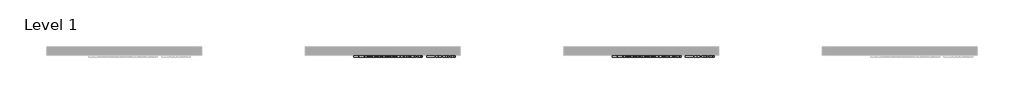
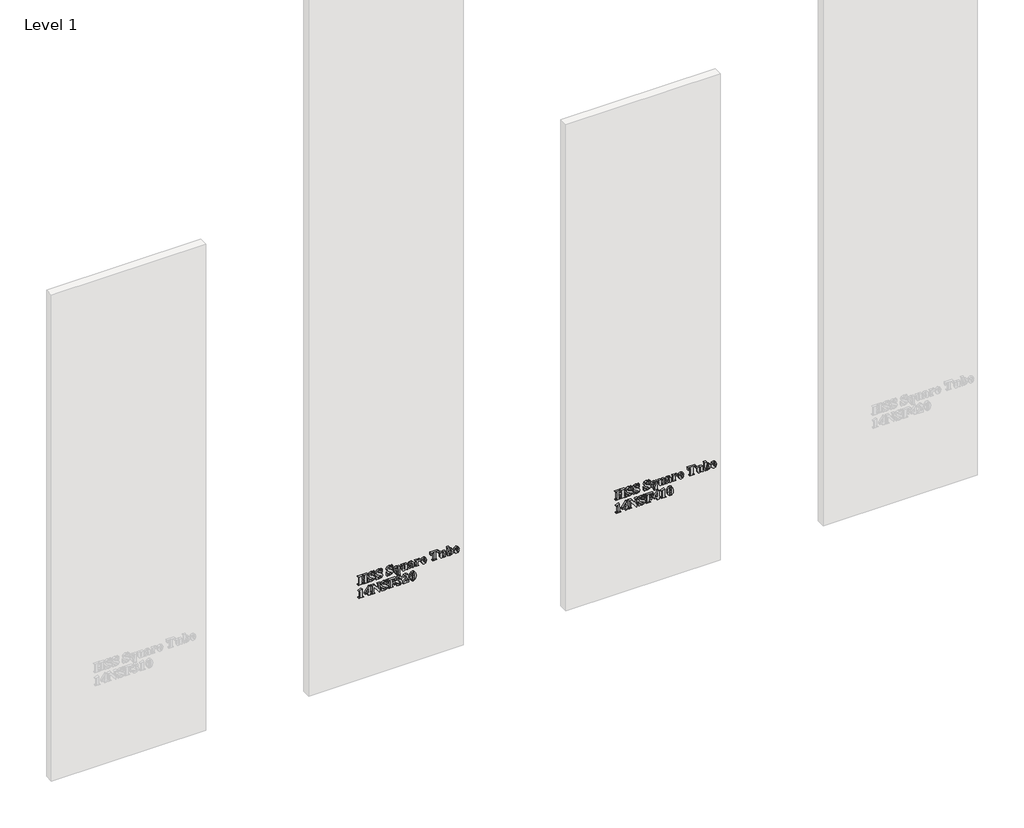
# One storey, part 2 of 21: 4 proxies.
"""IFC4 building model written with IfcOpenShell, lengths in millimetres."""

from ifc_helpers import new_model, si_unit, frame, origin, place, context, project, spatial, polyline, outline, extrude, element, save

model = new_model("IFC4")

# Units and contexts
model_context = context("Model", 3, world=origin())
ifc_project = project(units=[si_unit("LENGTHUNIT", "METRE", prefix="MILLI")], contexts=[model_context])

# Site, building, storey
site = spatial("IfcSite", under=ifc_project)
building = spatial("IfcBuilding", under=site)
storey = spatial("IfcBuildingStorey", under=building, Name="Level 1", Elevation=0.0)

# Proxies
placement = place(None, origin())
element("IfcBuildingElementProxy", 1, Name="2\"\" Arial", ObjectType="2\"\" Arial", at=placement, inside=storey, context=model_context, shape_type="SweptSolid", body=[
    extrude(outline(polyline([(625.0991907, -1958.7992544), (625.0991907, -1940.1843807), (609.1435847, -1940.1843807), (604.559118, -1940.5860409), (602.8139736, -1942.1095797), (602.0522042, -1945.6414196), (602.0522042, -1947.2757612), (600.2793591, -1947.2757612), (600.2793591, -1920.6830845), (602.0522042, -1920.6830845), (602.0522042, -1922.3174261), (602.7585722, -1925.696912), (604.4136893, -1927.3658795), (609.1435847, -1927.7744649), (643.7140644, -1927.7744649), (648.298531, -1927.3728047), (650.0436754, -1925.8492659), (650.8054448, -1922.3174261), (650.8054448, -1920.6830845), (652.5782899, -1920.6830845), (652.5782899, -1947.2757612), (650.8054448, -1947.2757612), (650.8054448, -1945.6414196), (650.0990768, -1942.2619336), (648.4439597, -1940.5929661), (643.7140644, -1940.1843807), (628.6448809, -1940.1843807), (628.6448809, -1958.7992544), (643.7140644, -1958.7992544), (648.298531, -1958.3975942), (650.0436754, -1956.8740554), (650.8054448, -1953.3699162), (650.8054448, -1951.7078739), (652.5782899, -1951.7078739), (652.5782899, -1978.3005506), (650.8054448, -1978.3005506), (650.8054448, -1976.624658), (650.0990768, -1973.2728727), (648.4439597, -1971.6177556), (643.7140644, -1971.2091702), (609.1435847, -1971.2091702), (604.559118, -1971.6108304), (602.8139736, -1973.1066685), (602.0522042, -1976.624658), (602.0522042, -1978.3005506), (600.2793591, -1978.3005506), (600.2793591, -1951.7078739), (602.0522042, -1951.7078739), (602.0522042, -1953.3699162), (602.7585722, -1956.7147763), (604.4136893, -1958.3768186), (609.1435847, -1958.7992544), (625.0991907, -1958.7992544)])), frame((0.0, -15490.3579358, 0.0), z_axis=(0.0, 1.0, 0.0), x_axis=(0.0, 0.0, 1.0)), (0.0, 0.0, 1.0), 12.7),
    extrude(outline(polyline([(653.4647125, -1879.9076469), (653.4647125, -1881.680492), (650.5284378, -1882.7885202), (649.9190223, -1884.4228618), (651.1586288, -1888.1832325), (652.855297, -1892.7330732), (653.4647125, -1897.8161526), (649.1364773, -1909.7482312), (638.6448354, -1914.4781266), (632.0382173, -1912.843785), (626.6019539, -1908.1623659), (620.6947786, -1897.3175399), (616.6504757, -1889.5613425), (613.3817925, -1886.2995845), (609.8222519, -1885.2261822), (604.3859886, -1887.8923751), (602.0522042, -1895.0599324), (606.366589, -1905.9116836), (618.8942328, -1912.7052815), (618.8942328, -1914.4781266), (599.3929366, -1914.4781266), (599.3929366, -1912.7052815), (602.0660546, -1910.8839601), (602.9386268, -1908.7440807), (602.0799049, -1905.6831528), (599.9538758, -1900.1360866), (599.3929366, -1895.4477423), (604.0743557, -1882.38686), (615.2654405, -1877.2483792), (624.365122, -1879.8660958), (632.813837, -1892.5530187), (637.3013512, -1901.6942513), (640.8608918, -1905.613901), (643.9218197, -1906.5003236), (648.7209668, -1904.0765119), (650.8054448, -1897.4975945), (646.6711146, -1887.4837897), (635.7362614, -1881.680492), (635.7362614, -1879.9076469), (653.4647125, -1879.9076469)])), frame((0.0, -15490.3579358, 0.0), z_axis=(0.0, 1.0, 0.0), x_axis=(0.0, 0.0, 1.0)), (0.0, 0.0, 1.0), 12.7),
    extrude(outline(polyline([(653.4647125, -1836.4729416), (653.4647125, -1838.2457867), (650.5284378, -1839.3538149), (649.9190223, -1840.9881565), (651.1586288, -1844.7485272), (652.855297, -1849.298368), (653.4647125, -1854.3814473), (649.1364773, -1866.3135259), (638.6448354, -1871.0434213), (632.0382173, -1869.4090797), (626.6019539, -1864.7276606), (620.6947786, -1853.8828346), (616.6504757, -1846.1266373), (613.3817925, -1842.8648793), (609.8222519, -1841.7914769), (604.3859886, -1844.4576698), (602.0522042, -1851.6252272), (606.366589, -1862.4769783), (618.8942328, -1869.2705762), (618.8942328, -1871.0434213), (599.3929366, -1871.0434213), (599.3929366, -1869.2705762), (602.0660546, -1867.4492548), (602.9386268, -1865.3093754), (602.0799049, -1862.2484475), (599.9538758, -1856.7013814), (599.3929366, -1852.0130371), (604.0743557, -1838.9521547), (615.2654405, -1833.8136739), (624.365122, -1836.4313906), (632.813837, -1849.1183134), (637.3013512, -1858.259546), (640.8608918, -1862.1791957), (643.9218197, -1863.0656183), (648.7209668, -1860.6418066), (650.8054448, -1854.0628892), (646.6711146, -1844.0490844), (635.7362614, -1838.2457867), (635.7362614, -1836.4729416), (653.4647125, -1836.4729416)])), frame((0.0, -15490.3579358, 0.0), z_axis=(0.0, 1.0, 0.0), x_axis=(0.0, 0.0, 1.0)), (0.0, 0.0, 1.0), 12.7),
    extrude(outline(polyline([(653.4647125, -1773.5369401), (653.4647125, -1775.3097852), (650.5284378, -1776.4178134), (649.9190223, -1778.052155), (651.1586288, -1781.8125257), (652.855297, -1786.3623665), (653.4647125, -1791.4454458), (649.1364773, -1803.3775244), (638.6448354, -1808.1074198), (632.0382173, -1806.4730782), (626.6019539, -1801.7916591), (620.6947786, -1790.9468331), (616.6504757, -1783.1906358), (613.3817925, -1779.9288778), (609.8222519, -1778.8554754), (604.3859886, -1781.5216683), (602.0522042, -1788.6892257), (606.366589, -1799.5409768), (618.8942328, -1806.3345747), (618.8942328, -1808.1074198), (599.3929366, -1808.1074198), (599.3929366, -1806.3345747), (602.0660546, -1804.5132533), (602.9386268, -1802.3733739), (602.0799049, -1799.312446), (599.9538758, -1793.7653799), (599.3929366, -1789.0770355), (604.0743557, -1776.0161532), (615.2654405, -1770.8776724), (624.365122, -1773.4953891), (632.813837, -1786.1823119), (637.3013512, -1795.3235445), (640.8608918, -1799.2431942), (643.9218197, -1800.1296168), (648.7209668, -1797.7058051), (650.8054448, -1791.1268877), (646.6711146, -1781.1130829), (635.7362614, -1775.3097852), (635.7362614, -1773.5369401), (653.4647125, -1773.5369401)])), frame((0.0, -15490.3579358, 0.0), z_axis=(0.0, 1.0, 0.0), x_axis=(0.0, 0.0, 1.0)), (0.0, 0.0, 1.0), 12.7),
    extrude(outline(polyline([(604.2544103, -1742.5121506), (589.6422884, -1742.5121506), (586.7683403, -1742.9138109), (585.6395366, -1744.3888734), (585.2101756, -1747.830686), (583.4373305, -1747.830686), (583.4373305, -1728.3293897), (585.2101756, -1728.3293897), (586.7475648, -1731.404168), (591.4151335, -1731.87508), (636.6226839, -1733.135462), (633.0769937, -1738.9664604), (635.7431865, -1743.1354165), (636.6226839, -1748.6755575), (634.0880694, -1757.498232), (626.761233, -1764.0563739), (616.5258225, -1766.4455597), (605.2931867, -1763.31538), (600.8679991, -1758.6547364), (599.3929366, -1752.5675065), (600.7779718, -1746.9165627), (604.2544103, -1742.5121506)]), holes=[polyline([(607.6892977, -1742.5121506), (604.7530229, -1746.064766), (603.8250493, -1749.3819254), (606.013405, -1753.4954801), (617.2460408, -1755.808489), (631.4703528, -1753.1215206), (633.9634162, -1748.3292987), (633.2570483, -1745.8500856), (629.9121882, -1743.2254438), (621.9967117, -1742.5121506), (607.6892977, -1742.5121506)])]), frame((0.0, -15490.3579358, 0.0), z_axis=(0.0, 1.0, 0.0), x_axis=(0.0, 0.0, 1.0)), (0.0, 0.0, 1.0), 12.7),
    extrude(outline(polyline([(635.7362614, -1688.4403747), (635.7362614, -1702.6231356), (633.9634162, -1702.6231356), (632.6891838, -1699.7630378), (627.7584584, -1699.0774454), (609.2959385, -1699.0774454), (605.4178399, -1702.5123328), (604.7114719, -1704.8253416), (605.2724112, -1706.528935), (606.9206031, -1707.6023373), (611.7613013, -1707.9416709), (635.7362614, -1707.9416709), (635.7362614, -1722.1244318), (633.9634162, -1722.1244318), (632.6891838, -1719.2643341), (627.7584584, -1718.5787416), (613.9081059, -1718.5787416), (605.4386154, -1717.8031219), (601.2004075, -1714.7560443), (599.3929366, -1709.5621622), (600.7017949, -1704.0289464), (605.0992818, -1699.0774454), (600.2793591, -1699.0774454), (600.2793591, -1684.8946845), (602.0522042, -1684.8946845), (603.2987359, -1687.7409319), (608.2571621, -1688.4403747), (635.7362614, -1688.4403747)])), frame((0.0, -15490.3579358, 0.0), z_axis=(0.0, 1.0, 0.0), x_axis=(0.0, 0.0, 1.0)), (0.0, 0.0, 1.0), 12.7),
    extrude(outline(polyline([(605.5978944, -1660.0748529), (600.9372508, -1658.1496539), (599.3929366, -1653.7729425), (600.7225704, -1649.5139592), (605.5286427, -1647.0416712), (605.9303029, -1649.2992787), (608.9635301, -1649.4377822), (622.6199776, -1649.4377822), (629.8914126, -1649.977946), (634.4966548, -1653.8906705), (636.6226839, -1662.0693036), (635.3069004, -1670.296413), (631.518829, -1676.4736702), (626.3318721, -1678.6897266), (622.9870119, -1677.055385), (621.5535005, -1672.9833814), (622.8762091, -1669.3061128), (626.0687154, -1667.900302), (629.2542964, -1669.354589), (631.2487472, -1670.4349165), (632.8553881, -1669.4376911), (633.9634162, -1665.1994833), (633.167021, -1662.2909093), (631.3041486, -1660.5388397), (626.1241168, -1660.0748529), (622.4676237, -1660.0748529), (613.7765276, -1675.9335064), (606.4289156, -1679.5761491), (601.4012377, -1677.4778207), (599.3929366, -1672.221612), (605.5978944, -1660.0748529)]), holes=[polyline([(608.2571621, -1660.0748529), (605.5978944, -1664.7701224), (606.6505212, -1667.6094446), (609.8222519, -1668.9390785), (614.0881605, -1667.3601383), (620.0299617, -1660.0748529), (608.2571621, -1660.0748529)])]), frame((0.0, -15490.3579358, 0.0), z_axis=(0.0, 1.0, 0.0), x_axis=(0.0, 0.0, 1.0)), (0.0, 0.0, 1.0), 12.7),
    extrude(outline(polyline([(635.7362614, -1624.6179506), (635.7362614, -1638.8007115), (633.9634162, -1638.8007115), (633.2708986, -1636.5154034), (631.6919584, -1635.5320284), (627.7584584, -1635.2550213), (608.2571621, -1635.2550213), (603.1810079, -1635.98909), (602.0522042, -1638.8007115), (600.2793591, -1638.8007115), (600.2793591, -1621.0722604), (602.0522042, -1621.0722604), (602.592368, -1623.3852693), (603.9635529, -1624.4101954), (606.484317, -1624.6179506), (608.6172713, -1624.6179506), (616.8305303, -1624.6179506), (624.9883879, -1623.2883168), (628.686432, -1620.6983009), (629.2542964, -1617.7758765), (627.5299275, -1616.5085693), (625.9856132, -1613.98088), (627.4260499, -1610.2205093), (631.4842032, -1608.6623446), (635.2791997, -1610.1097065), (636.6226839, -1613.98088), (634.8913899, -1618.8008026), (627.5784038, -1624.6179506), (635.7362614, -1624.6179506)])), frame((0.0, -15490.3579358, 0.0), z_axis=(0.0, 1.0, 0.0), x_axis=(0.0, 0.0, 1.0)), (0.0, 0.0, 1.0), 12.7),
    extrude(outline(polyline([(619.7806553, -1573.2054424), (632.3775509, -1577.672181), (636.6226839, -1587.4436047), (631.4218766, -1599.2094791), (617.4260954, -1604.2302318), (605.4039895, -1600.8230451), (600.8956998, -1595.570299), (599.3929366, -1588.3161769), (602.0106532, -1579.8743871), (611.8028523, -1574.5212259), (606.9483038, -1578.7040323), (605.5978944, -1583.0391926), (608.7142237, -1589.6458107), (619.7806553, -1593.5931612), (619.7806553, -1573.2054424)]), holes=[polyline([(622.439923, -1582.9560905), (623.658754, -1593.5931612), (632.1767208, -1591.2801523), (633.9634162, -1587.9560677), (633.3401504, -1585.767712), (630.1545693, -1583.6416829), (622.439923, -1582.9560905)])]), frame((0.0, -15490.3579358, 0.0), z_axis=(0.0, 1.0, 0.0), x_axis=(0.0, 0.0, 1.0)), (0.0, 0.0, 1.0), 12.7),
    extrude(outline(polyline([(652.5782899, -1502.2916379), (652.5782899, -1548.3856108), (637.5091065, -1548.3856108), (637.5091065, -1546.6127657), (646.7195908, -1542.5130614), (649.0325997, -1535.0892725), (649.0325997, -1531.5435822), (609.1435847, -1531.5435822), (604.559118, -1531.9452424), (602.8139736, -1533.4687812), (602.0522042, -1536.9729204), (602.0522042, -1538.6349627), (600.2793591, -1538.6349627), (600.2793591, -1512.042286), (602.0522042, -1512.042286), (602.0522042, -1513.6904779), (602.7585722, -1517.0561136), (604.4136893, -1518.7112307), (609.1435847, -1519.1336664), (649.0325997, -1519.1336664), (649.0325997, -1515.5879762), (648.3123814, -1510.6572507), (644.7874667, -1506.6960499), (637.5091065, -1504.064483), (637.5091065, -1502.2916379), (652.5782899, -1502.2916379)])), frame((0.0, -15490.3579358, 0.0), z_axis=(0.0, 1.0, 0.0), x_axis=(0.0, 0.0, 1.0)), (0.0, 0.0, 1.0), 12.7),
    extrude(outline(polyline([(635.7362614, -1462.4026228), (635.7362614, -1476.5853837), (633.9634162, -1476.5853837), (632.6891838, -1473.725286), (627.7584584, -1473.0396935), (609.2959385, -1473.0396935), (605.4178399, -1476.4745809), (604.7114719, -1478.7875898), (605.2724112, -1480.4911831), (606.9206031, -1481.5645854), (611.7613013, -1481.9039191), (635.7362614, -1481.9039191), (635.7362614, -1496.08668), (633.9634162, -1496.08668), (632.6891838, -1493.2265822), (627.7584584, -1492.5409897), (613.9081059, -1492.5409897), (605.4386154, -1491.76537), (601.2004075, -1488.7182925), (599.3929366, -1483.5244103), (600.7017949, -1477.9911945), (605.0992818, -1473.0396935), (600.2793591, -1473.0396935), (600.2793591, -1458.8569326), (602.0522042, -1458.8569326), (603.2987359, -1461.70318), (608.2571621, -1462.4026228), (635.7362614, -1462.4026228)])), frame((0.0, -15490.3579358, 0.0), z_axis=(0.0, 1.0, 0.0), x_axis=(0.0, 0.0, 1.0)), (0.0, 0.0, 1.0), 12.7),
    extrude(outline(polyline([(652.5782899, -1438.4692138), (652.5782899, -1452.6519747), (650.8054448, -1452.6519747), (650.1891041, -1450.3320407), (648.5478374, -1449.3278901), (644.6004869, -1449.1062845), (599.3929366, -1447.8320521), (602.9386268, -1442.014904), (600.2239577, -1437.5135395), (599.3929366, -1432.2781063), (601.8513741, -1423.2338261), (609.0050811, -1416.9042151), (619.4482469, -1414.5358048), (628.4648263, -1416.391752), (634.4966548, -1421.5233076), (636.6226839, -1428.5108104), (631.9274144, -1438.4692138), (652.5782899, -1438.4692138)]), holes=[polyline([(628.5617788, -1438.4692138), (632.1905711, -1431.6963915), (630.0299162, -1427.3889319), (619.0050356, -1425.1728755), (607.426141, -1426.177026), (603.1325317, -1428.6770146), (602.0522042, -1432.2781063), (603.4164639, -1436.2531574), (606.9829297, -1438.2199075), (613.0355337, -1438.4692138), (628.5617788, -1438.4692138)])]), frame((0.0, -15490.3579358, 0.0), z_axis=(0.0, 1.0, 0.0), x_axis=(0.0, 0.0, 1.0)), (0.0, 0.0, 1.0), 12.7),
    extrude(outline(polyline([(619.7806553, -1379.0789025), (632.3775509, -1383.5456412), (636.6226839, -1393.3170648), (631.4218766, -1405.0829392), (617.4260954, -1410.103692), (605.4039895, -1406.6965053), (600.8956998, -1401.4437591), (599.3929366, -1394.1896371), (602.0106532, -1385.7478472), (611.8028523, -1380.394686), (606.9483038, -1384.5774925), (605.5978944, -1388.9126528), (608.7142237, -1395.5192709), (619.7806553, -1399.4666213), (619.7806553, -1379.0789025)]), holes=[polyline([(622.439923, -1388.8295507), (623.658754, -1399.4666213), (632.1767208, -1397.1536125), (633.9634162, -1393.8295279), (633.3401504, -1391.6411722), (630.1545693, -1389.5151431), (622.439923, -1388.8295507)])]), frame((0.0, -15490.3579358, 0.0), z_axis=(0.0, 1.0, 0.0), x_axis=(0.0, 0.0, 1.0)), (0.0, 0.0, 1.0), 12.7),
])
element("IfcBuildingElementProxy", 2, Name="2\"\" Arial", ObjectType="2\"\" Arial", at=placement, inside=storey, context=model_context, shape_type="SweptSolid", body=[
    extrude(outline(polyline([(570.9147125, -1954.9973326), (562.0504869, -1974.7548604), (560.2776418, -1974.0900435), (561.5103232, -1969.5332775), (560.873207, -1967.4557247), (559.3565934, -1966.2230433), (554.9591065, -1965.8906348), (528.3664298, -1965.8906348), (522.2999754, -1966.4100231), (520.2501233, -1968.3975486), (519.5022042, -1974.7548604), (517.7293591, -1974.7548604), (517.7293591, -1946.3893386), (519.5022042, -1947.62202), (520.319375, -1952.0956838), (522.4246286, -1953.9308555), (528.3664298, -1954.3671416), (570.9147125, -1954.9973326)])), frame((0.0, -15490.3579358, 0.0), z_axis=(0.0, 1.0, 0.0), x_axis=(0.0, 0.0, 1.0)), (0.0, 0.0, 1.0), 12.7),
    extrude(outline(polyline([(537.2306553, -1937.525113), (529.2528523, -1937.525113), (529.2528523, -1918.9102393), (517.7293591, -1918.9102393), (517.7293591, -1907.3867461), (529.2528523, -1907.3867461), (529.2528523, -1902.9546333), (537.2306553, -1902.9546333), (537.2306553, -1907.3867461), (570.9147125, -1907.3867461), (570.9147125, -1912.4975262), (537.2306553, -1937.525113)]), holes=[polyline([(537.2306553, -1934.8381447), (558.6571506, -1918.9102393), (537.2306553, -1918.9102393), (537.2306553, -1934.8381447)])]), frame((0.0, -15490.3579358, 0.0), z_axis=(0.0, 1.0, 0.0), x_axis=(0.0, 0.0, 1.0)), (0.0, 0.0, 1.0), 12.7),
    extrude(outline(polyline([(570.0282899, -1880.3231574), (570.0282899, -1898.7441262), (568.2554448, -1898.7441262), (567.6529545, -1895.080708), (564.5019993, -1891.4311401), (526.5935847, -1891.4311401), (521.143471, -1892.9893048), (519.5022042, -1898.5225206), (517.7293591, -1898.5225206), (517.7293591, -1880.7940694), (519.5022042, -1881.8882473), (520.9634164, -1886.0641285), (526.5935847, -1887.8854499), (560.0006348, -1887.8854499), (516.8429366, -1854.0628892), (516.8429366, -1852.4285476), (559.3912193, -1852.4285476), (564.8274826, -1851.7706559), (567.1127907, -1849.9354842), (568.2554448, -1845.3371672), (570.0282899, -1845.3371672), (570.0282899, -1863.0656183), (568.2554448, -1863.0656183), (566.0116877, -1857.2346199), (559.3912193, -1855.9742378), (538.9619494, -1855.9742378), (570.0282899, -1880.3231574)])), frame((0.0, -15490.3579358, 0.0), z_axis=(0.0, 1.0, 0.0), x_axis=(0.0, 0.0, 1.0)), (0.0, 0.0, 1.0), 12.7),
    extrude(outline(polyline([(570.9147125, -1804.5617296), (570.9147125, -1806.3345747), (567.9784378, -1807.4426029), (567.3690223, -1809.0769445), (568.6086288, -1812.8373152), (570.305297, -1817.3871559), (570.9147125, -1822.4702353), (566.5864773, -1834.4023139), (556.0948354, -1839.1322093), (549.4882173, -1837.4978677), (544.0519539, -1832.8164486), (538.1447786, -1821.9716226), (534.1004757, -1814.2154252), (530.8317925, -1810.9536672), (527.2722519, -1809.8802649), (521.8359886, -1812.5464578), (519.5022042, -1819.7140152), (523.816589, -1830.5657663), (536.3442328, -1837.3593642), (536.3442328, -1839.1322093), (516.8429366, -1839.1322093), (516.8429366, -1837.3593642), (519.5160546, -1835.5380428), (520.3886268, -1833.3981634), (519.5299049, -1830.3372355), (517.4038758, -1824.7901693), (516.8429366, -1820.101825), (521.5243557, -1807.0409427), (532.7154405, -1801.9024619), (541.815122, -1804.5201785), (550.263837, -1817.2071014), (554.7513512, -1826.348334), (558.3108918, -1830.2679837), (561.3718197, -1831.1544063), (566.1709668, -1828.7305946), (568.2554448, -1822.1516772), (564.1211146, -1812.1378724), (553.1862614, -1806.3345747), (553.1862614, -1804.5617296), (570.9147125, -1804.5617296)])), frame((0.0, -15490.3579358, 0.0), z_axis=(0.0, 1.0, 0.0), x_axis=(0.0, 0.0, 1.0)), (0.0, 0.0, 1.0), 12.7),
    extrude(outline(polyline([(566.4825997, -1777.9690529), (566.4825997, -1773.5369401), (565.8870346, -1764.9774223), (562.1751401, -1758.5647091), (554.0726839, -1755.808489), (554.0726839, -1754.0356439), (570.0282899, -1754.0356439), (570.0282899, -1797.4703491), (568.2554448, -1797.4703491), (568.2554448, -1795.7944565), (567.5490768, -1792.4426712), (565.8939597, -1790.7875541), (561.1640644, -1790.3789687), (526.5935847, -1790.3789687), (522.009118, -1790.7806289), (520.2639736, -1792.276467), (519.5022042, -1795.7944565), (519.5022042, -1797.4703491), (517.7293591, -1797.4703491), (517.7293591, -1770.8776724), (519.5022042, -1770.8776724), (519.5022042, -1772.5397147), (520.2085722, -1775.8845748), (521.8636893, -1777.5466171), (526.5935847, -1777.9690529), (542.5491907, -1777.9690529), (542.5491907, -1776.1962078), (540.1323042, -1769.2848819), (530.1392749, -1765.5591371), (530.1392749, -1763.786292), (558.5047967, -1763.786292), (558.5047967, -1765.5591371), (551.1225588, -1767.4150843), (547.2444602, -1770.898448), (546.0948809, -1776.1962078), (546.0948809, -1777.9690529), (566.4825997, -1777.9690529)])), frame((0.0, -15490.3579358, 0.0), z_axis=(0.0, 1.0, 0.0), x_axis=(0.0, 0.0, 1.0)), (0.0, 0.0, 1.0), 12.7),
    extrude(outline(polyline([(546.0948809, -1741.6257281), (539.9245489, -1729.7352005), (530.1669756, -1725.6701221), (524.4260045, -1727.7753756), (522.1614719, -1732.8169039), (525.2778012, -1740.0744886), (528.6988382, -1744.5758532), (529.2528523, -1747.0412159), (527.7639395, -1750.0675179), (524.169773, -1751.3763762), (519.4468028, -1749.1187688), (516.8429366, -1739.1742157), (518.3578188, -1729.9983572), (522.9024657, -1722.8862012), (529.6112302, -1718.3259727), (537.6184652, -1716.8058965), (546.1641327, -1719.6452188), (551.8981786, -1727.8861785), (556.1017606, -1721.501166), (561.0671119, -1719.4651642), (567.9645874, -1723.1008817), (570.9147125, -1732.3321416), (568.4701253, -1742.2836198), (560.6516013, -1748.7171085), (565.5961771, -1739.3265696), (563.2346921, -1733.3778432), (557.5768231, -1730.9886574), (552.8746284, -1732.269815), (549.4258907, -1735.3099674), (546.0948809, -1741.6257281)])), frame((0.0, -15490.3579358, 0.0), z_axis=(0.0, 1.0, 0.0), x_axis=(0.0, 0.0, 1.0)), (0.0, 0.0, 1.0), 12.7),
    extrude(outline(polyline([(517.7293591, -1680.0609115), (532.7985426, -1678.4404202), (529.709914, -1680.5387486), (528.6711375, -1682.5747504), (528.3664298, -1687.9279117), (528.3664298, -1699.0912957), (547.9369778, -1682.3739203), (558.1723882, -1679.5761491), (564.1072643, -1681.4667222), (569.0933911, -1686.6952303), (570.9147125, -1694.0774681), (567.4105733, -1704.0704974), (556.0948354, -1709.0912502), (560.561574, -1704.9222941), (562.0504869, -1699.3406021), (559.3704437, -1692.8655623), (552.6460976, -1690.2132198), (541.2749583, -1693.3156988), (517.7293591, -1711.4873612), (517.7293591, -1680.0609115)])), frame((0.0, -15490.3579358, 0.0), z_axis=(0.0, 1.0, 0.0), x_axis=(0.0, 0.0, 1.0)), (0.0, 0.0, 1.0), 12.7),
    extrude(outline(polyline([(543.8788245, -1635.2550213), (559.5435731, -1637.9004386), (567.8330091, -1643.849165), (570.9147125, -1652.5541115), (567.791458, -1661.2521329), (558.8095045, -1667.3739886), (543.269409, -1669.825501), (531.164201, -1668.1219077), (524.2390248, -1665.0886805), (518.7542852, -1659.5554647), (516.8429366, -1652.5541115), (518.394176, -1646.2799019), (522.5908328, -1641.1275708), (529.3636552, -1637.5126288), (543.8788245, -1635.2550213)]), holes=[polyline([(543.8788245, -1646.7785146), (527.3692044, -1646.9585691), (520.7348856, -1649.0499724), (519.5022042, -1652.3186555), (520.4232527, -1655.5527128), (524.0728205, -1657.4294356), (538.8926976, -1658.3020078), (562.5906507, -1657.7341433), (567.3274712, -1655.5457876), (568.2554448, -1652.5818122), (567.0227635, -1649.0499724), (559.8067298, -1646.9585691), (543.8788245, -1646.7785146)])]), frame((0.0, -15490.3579358, 0.0), z_axis=(0.0, 1.0, 0.0), x_axis=(0.0, 0.0, 1.0)), (0.0, 0.0, 1.0), 12.7),
])
element("IfcBuildingElementProxy", 3, Name="2\"\" Arial", ObjectType="2\"\" Arial", at=placement, inside=storey, context=model_context, shape_type="SweptSolid", body=[
    extrude(outline(polyline([(625.0991907, -434.7992544), (625.0991907, -416.1843807), (609.1435847, -416.1843807), (604.559118, -416.5860409), (602.8139736, -418.1095797), (602.0522042, -421.6414196), (602.0522042, -423.2757612), (600.2793591, -423.2757612), (600.2793591, -396.6830845), (602.0522042, -396.6830845), (602.0522042, -398.3174261), (602.7585722, -401.696912), (604.4136893, -403.3658795), (609.1435847, -403.7744649), (643.7140644, -403.7744649), (648.298531, -403.3728047), (650.0436754, -401.8492659), (650.8054448, -398.3174261), (650.8054448, -396.6830845), (652.5782899, -396.6830845), (652.5782899, -423.2757612), (650.8054448, -423.2757612), (650.8054448, -421.6414196), (650.0990768, -418.2619336), (648.4439597, -416.5929661), (643.7140644, -416.1843807), (628.6448809, -416.1843807), (628.6448809, -434.7992544), (643.7140644, -434.7992544), (648.298531, -434.3975942), (650.0436754, -432.8740554), (650.8054448, -429.3699162), (650.8054448, -427.7078739), (652.5782899, -427.7078739), (652.5782899, -454.3005506), (650.8054448, -454.3005506), (650.8054448, -452.624658), (650.0990768, -449.2728727), (648.4439597, -447.6177556), (643.7140644, -447.2091702), (609.1435847, -447.2091702), (604.559118, -447.6108304), (602.8139736, -449.1066685), (602.0522042, -452.624658), (602.0522042, -454.3005506), (600.2793591, -454.3005506), (600.2793591, -427.7078739), (602.0522042, -427.7078739), (602.0522042, -429.3699162), (602.7585722, -432.7147763), (604.4136893, -434.3768186), (609.1435847, -434.7992544), (625.0991907, -434.7992544)])), frame((0.0, -15490.3579358, 0.0), z_axis=(0.0, 1.0, 0.0), x_axis=(0.0, 0.0, 1.0)), (0.0, 0.0, 1.0), 12.7),
    extrude(outline(polyline([(653.4647125, -355.9076469), (653.4647125, -357.680492), (650.5284378, -358.7885202), (649.9190223, -360.4228618), (651.1586288, -364.1832325), (652.855297, -368.7330732), (653.4647125, -373.8161526), (649.1364773, -385.7482312), (638.6448354, -390.4781266), (632.0382173, -388.843785), (626.6019539, -384.1623659), (620.6947786, -373.3175399), (616.6504757, -365.5613425), (613.3817925, -362.2995845), (609.8222519, -361.2261822), (604.3859886, -363.8923751), (602.0522042, -371.0599324), (606.366589, -381.9116836), (618.8942328, -388.7052815), (618.8942328, -390.4781266), (599.3929366, -390.4781266), (599.3929366, -388.7052815), (602.0660546, -386.8839601), (602.9386268, -384.7440807), (602.0799049, -381.6831528), (599.9538758, -376.1360866), (599.3929366, -371.4477423), (604.0743557, -358.38686), (615.2654405, -353.2483792), (624.365122, -355.8660958), (632.813837, -368.5530187), (637.3013512, -377.6942513), (640.8608918, -381.613901), (643.9218197, -382.5003236), (648.7209668, -380.0765119), (650.8054448, -373.4975945), (646.6711146, -363.4837897), (635.7362614, -357.680492), (635.7362614, -355.9076469), (653.4647125, -355.9076469)])), frame((0.0, -15490.3579358, 0.0), z_axis=(0.0, 1.0, 0.0), x_axis=(0.0, 0.0, 1.0)), (0.0, 0.0, 1.0), 12.7),
    extrude(outline(polyline([(653.4647125, -312.4729416), (653.4647125, -314.2457867), (650.5284378, -315.3538149), (649.9190223, -316.9881565), (651.1586288, -320.7485272), (652.855297, -325.298368), (653.4647125, -330.3814473), (649.1364773, -342.3135259), (638.6448354, -347.0434213), (632.0382173, -345.4090797), (626.6019539, -340.7276606), (620.6947786, -329.8828346), (616.6504757, -322.1266373), (613.3817925, -318.8648793), (609.8222519, -317.7914769), (604.3859886, -320.4576698), (602.0522042, -327.6252272), (606.366589, -338.4769783), (618.8942328, -345.2705762), (618.8942328, -347.0434213), (599.3929366, -347.0434213), (599.3929366, -345.2705762), (602.0660546, -343.4492548), (602.9386268, -341.3093754), (602.0799049, -338.2484475), (599.9538758, -332.7013814), (599.3929366, -328.0130371), (604.0743557, -314.9521547), (615.2654405, -309.8136739), (624.365122, -312.4313906), (632.813837, -325.1183134), (637.3013512, -334.259546), (640.8608918, -338.1791957), (643.9218197, -339.0656183), (648.7209668, -336.6418066), (650.8054448, -330.0628892), (646.6711146, -320.0490844), (635.7362614, -314.2457867), (635.7362614, -312.4729416), (653.4647125, -312.4729416)])), frame((0.0, -15490.3579358, 0.0), z_axis=(0.0, 1.0, 0.0), x_axis=(0.0, 0.0, 1.0)), (0.0, 0.0, 1.0), 12.7),
    extrude(outline(polyline([(653.4647125, -249.5369401), (653.4647125, -251.3097852), (650.5284378, -252.4178134), (649.9190223, -254.052155), (651.1586288, -257.8125257), (652.855297, -262.3623665), (653.4647125, -267.4454458), (649.1364773, -279.3775244), (638.6448354, -284.1074198), (632.0382173, -282.4730782), (626.6019539, -277.7916591), (620.6947786, -266.9468331), (616.6504757, -259.1906358), (613.3817925, -255.9288778), (609.8222519, -254.8554754), (604.3859886, -257.5216683), (602.0522042, -264.6892257), (606.366589, -275.5409768), (618.8942328, -282.3345747), (618.8942328, -284.1074198), (599.3929366, -284.1074198), (599.3929366, -282.3345747), (602.0660546, -280.5132533), (602.9386268, -278.3733739), (602.0799049, -275.312446), (599.9538758, -269.7653799), (599.3929366, -265.0770355), (604.0743557, -252.0161532), (615.2654405, -246.8776724), (624.365122, -249.4953891), (632.813837, -262.1823119), (637.3013512, -271.3235445), (640.8608918, -275.2431942), (643.9218197, -276.1296168), (648.7209668, -273.7058051), (650.8054448, -267.1268877), (646.6711146, -257.1130829), (635.7362614, -251.3097852), (635.7362614, -249.5369401), (653.4647125, -249.5369401)])), frame((0.0, -15490.3579358, 0.0), z_axis=(0.0, 1.0, 0.0), x_axis=(0.0, 0.0, 1.0)), (0.0, 0.0, 1.0), 12.7),
    extrude(outline(polyline([(604.2544103, -218.5121506), (589.6422884, -218.5121506), (586.7683403, -218.9138109), (585.6395366, -220.3888734), (585.2101756, -223.830686), (583.4373305, -223.830686), (583.4373305, -204.3293897), (585.2101756, -204.3293897), (586.7475648, -207.404168), (591.4151335, -207.87508), (636.6226839, -209.135462), (633.0769937, -214.9664604), (635.7431865, -219.1354165), (636.6226839, -224.6755575), (634.0880694, -233.498232), (626.761233, -240.0563739), (616.5258225, -242.4455597), (605.2931867, -239.31538), (600.8679991, -234.6547364), (599.3929366, -228.5675065), (600.7779718, -222.9165627), (604.2544103, -218.5121506)]), holes=[polyline([(607.6892977, -218.5121506), (604.7530229, -222.064766), (603.8250493, -225.3819254), (606.013405, -229.4954801), (617.2460408, -231.808489), (631.4703528, -229.1215206), (633.9634162, -224.3292987), (633.2570483, -221.8500856), (629.9121882, -219.2254438), (621.9967117, -218.5121506), (607.6892977, -218.5121506)])]), frame((0.0, -15490.3579358, 0.0), z_axis=(0.0, 1.0, 0.0), x_axis=(0.0, 0.0, 1.0)), (0.0, 0.0, 1.0), 12.7),
    extrude(outline(polyline([(635.7362614, -164.4403747), (635.7362614, -178.6231356), (633.9634162, -178.6231356), (632.6891838, -175.7630378), (627.7584584, -175.0774454), (609.2959385, -175.0774454), (605.4178399, -178.5123328), (604.7114719, -180.8253416), (605.2724112, -182.528935), (606.9206031, -183.6023373), (611.7613013, -183.9416709), (635.7362614, -183.9416709), (635.7362614, -198.1244318), (633.9634162, -198.1244318), (632.6891838, -195.2643341), (627.7584584, -194.5787416), (613.9081059, -194.5787416), (605.4386154, -193.8031219), (601.2004075, -190.7560443), (599.3929366, -185.5621622), (600.7017949, -180.0289464), (605.0992818, -175.0774454), (600.2793591, -175.0774454), (600.2793591, -160.8946845), (602.0522042, -160.8946845), (603.2987359, -163.7409319), (608.2571621, -164.4403747), (635.7362614, -164.4403747)])), frame((0.0, -15490.3579358, 0.0), z_axis=(0.0, 1.0, 0.0), x_axis=(0.0, 0.0, 1.0)), (0.0, 0.0, 1.0), 12.7),
    extrude(outline(polyline([(605.5978944, -136.0748529), (600.9372508, -134.1496539), (599.3929366, -129.7729425), (600.7225704, -125.5139592), (605.5286427, -123.0416712), (605.9303029, -125.2992787), (608.9635301, -125.4377822), (622.6199776, -125.4377822), (629.8914126, -125.977946), (634.4966548, -129.8906705), (636.6226839, -138.0693036), (635.3069004, -146.296413), (631.518829, -152.4736702), (626.3318721, -154.6897266), (622.9870119, -153.055385), (621.5535005, -148.9833814), (622.8762091, -145.3061128), (626.0687154, -143.900302), (629.2542964, -145.354589), (631.2487472, -146.4349165), (632.8553881, -145.4376911), (633.9634162, -141.1994833), (633.167021, -138.2909093), (631.3041486, -136.5388397), (626.1241168, -136.0748529), (622.4676237, -136.0748529), (613.7765276, -151.9335064), (606.4289156, -155.5761491), (601.4012377, -153.4778207), (599.3929366, -148.221612), (605.5978944, -136.0748529)]), holes=[polyline([(608.2571621, -136.0748529), (605.5978944, -140.7701224), (606.6505212, -143.6094446), (609.8222519, -144.9390785), (614.0881605, -143.3601383), (620.0299617, -136.0748529), (608.2571621, -136.0748529)])]), frame((0.0, -15490.3579358, 0.0), z_axis=(0.0, 1.0, 0.0), x_axis=(0.0, 0.0, 1.0)), (0.0, 0.0, 1.0), 12.7),
    extrude(outline(polyline([(635.7362614, -100.6179506), (635.7362614, -114.8007115), (633.9634162, -114.8007115), (633.2708986, -112.5154034), (631.6919584, -111.5320284), (627.7584584, -111.2550213), (608.2571621, -111.2550213), (603.1810079, -111.98909), (602.0522042, -114.8007115), (600.2793591, -114.8007115), (600.2793591, -97.0722604), (602.0522042, -97.0722604), (602.592368, -99.3852693), (603.9635529, -100.4101954), (606.484317, -100.6179506), (608.6172713, -100.6179506), (616.8305303, -100.6179506), (624.9883879, -99.2883168), (628.686432, -96.6983009), (629.2542964, -93.7758765), (627.5299275, -92.5085693), (625.9856132, -89.98088), (627.4260499, -86.2205093), (631.4842032, -84.6623446), (635.2791997, -86.1097065), (636.6226839, -89.98088), (634.8913899, -94.8008026), (627.5784038, -100.6179506), (635.7362614, -100.6179506)])), frame((0.0, -15490.3579358, 0.0), z_axis=(0.0, 1.0, 0.0), x_axis=(0.0, 0.0, 1.0)), (0.0, 0.0, 1.0), 12.7),
    extrude(outline(polyline([(619.7806553, -49.2054424), (632.3775509, -53.672181), (636.6226839, -63.4436047), (631.4218766, -75.2094791), (617.4260954, -80.2302318), (605.4039895, -76.8230451), (600.8956998, -71.570299), (599.3929366, -64.3161769), (602.0106532, -55.8743871), (611.8028523, -50.5212259), (606.9483038, -54.7040323), (605.5978944, -59.0391926), (608.7142237, -65.6458107), (619.7806553, -69.5931612), (619.7806553, -49.2054424)]), holes=[polyline([(622.439923, -58.9560905), (623.658754, -69.5931612), (632.1767208, -67.2801523), (633.9634162, -63.9560677), (633.3401504, -61.767712), (630.1545693, -59.6416829), (622.439923, -58.9560905)])]), frame((0.0, -15490.3579358, 0.0), z_axis=(0.0, 1.0, 0.0), x_axis=(0.0, 0.0, 1.0)), (0.0, 0.0, 1.0), 12.7),
    extrude(outline(polyline([(652.5782899, 21.7083621), (652.5782899, -24.3856108), (637.5091065, -24.3856108), (637.5091065, -22.6127657), (646.7195908, -18.5130614), (649.0325997, -11.0892725), (649.0325997, -7.5435822), (609.1435847, -7.5435822), (604.559118, -7.9452424), (602.8139736, -9.4687812), (602.0522042, -12.9729204), (602.0522042, -14.6349627), (600.2793591, -14.6349627), (600.2793591, 11.957714), (602.0522042, 11.957714), (602.0522042, 10.3095221), (602.7585722, 6.9438864), (604.4136893, 5.2887693), (609.1435847, 4.8663336), (649.0325997, 4.8663336), (649.0325997, 8.4120238), (648.3123814, 13.3427493), (644.7874667, 17.3039501), (637.5091065, 19.935517), (637.5091065, 21.7083621), (652.5782899, 21.7083621)])), frame((0.0, -15490.3579358, 0.0), z_axis=(0.0, 1.0, 0.0), x_axis=(0.0, 0.0, 1.0)), (0.0, 0.0, 1.0), 12.7),
    extrude(outline(polyline([(635.7362614, 61.5973772), (635.7362614, 47.4146163), (633.9634162, 47.4146163), (632.6891838, 50.274714), (627.7584584, 50.9603065), (609.2959385, 50.9603065), (605.4178399, 47.5254191), (604.7114719, 45.2124102), (605.2724112, 43.5088169), (606.9206031, 42.4354146), (611.7613013, 42.0960809), (635.7362614, 42.0960809), (635.7362614, 27.91332), (633.9634162, 27.91332), (632.6891838, 30.7734178), (627.7584584, 31.4590103), (613.9081059, 31.4590103), (605.4386154, 32.23463), (601.2004075, 35.2817075), (599.3929366, 40.4755897), (600.7017949, 46.0088055), (605.0992818, 50.9603065), (600.2793591, 50.9603065), (600.2793591, 65.1430674), (602.0522042, 65.1430674), (603.2987359, 62.29682), (608.2571621, 61.5973772), (635.7362614, 61.5973772)])), frame((0.0, -15490.3579358, 0.0), z_axis=(0.0, 1.0, 0.0), x_axis=(0.0, 0.0, 1.0)), (0.0, 0.0, 1.0), 12.7),
    extrude(outline(polyline([(652.5782899, 85.5307862), (652.5782899, 71.3480253), (650.8054448, 71.3480253), (650.1891041, 73.6679593), (648.5478374, 74.6721099), (644.6004869, 74.8937155), (599.3929366, 76.1679479), (602.9386268, 81.985096), (600.2239577, 86.4864605), (599.3929366, 91.7218937), (601.8513741, 100.7661739), (609.0050811, 107.0957849), (619.4482469, 109.4641952), (628.4648263, 107.608248), (634.4966548, 102.4766924), (636.6226839, 95.4891896), (631.9274144, 85.5307862), (652.5782899, 85.5307862)]), holes=[polyline([(628.5617788, 85.5307862), (632.1905711, 92.3036085), (630.0299162, 96.6110681), (619.0050356, 98.8271245), (607.426141, 97.822974), (603.1325317, 95.3229854), (602.0522042, 91.7218937), (603.4164639, 87.7468426), (606.9829297, 85.7800925), (613.0355337, 85.5307862), (628.5617788, 85.5307862)])]), frame((0.0, -15490.3579358, 0.0), z_axis=(0.0, 1.0, 0.0), x_axis=(0.0, 0.0, 1.0)), (0.0, 0.0, 1.0), 12.7),
    extrude(outline(polyline([(619.7806553, 144.9210975), (632.3775509, 140.4543588), (636.6226839, 130.6829352), (631.4218766, 118.9170608), (617.4260954, 113.896308), (605.4039895, 117.3034947), (600.8956998, 122.5562409), (599.3929366, 129.8103629), (602.0106532, 138.2521528), (611.8028523, 143.605314), (606.9483038, 139.4225075), (605.5978944, 135.0873472), (608.7142237, 128.4807291), (619.7806553, 124.5333787), (619.7806553, 144.9210975)]), holes=[polyline([(622.439923, 135.1704493), (623.658754, 124.5333787), (632.1767208, 126.8463875), (633.9634162, 130.1704721), (633.3401504, 132.3588278), (630.1545693, 134.4848569), (622.439923, 135.1704493)])]), frame((0.0, -15490.3579358, 0.0), z_axis=(0.0, 1.0, 0.0), x_axis=(0.0, 0.0, 1.0)), (0.0, 0.0, 1.0), 12.7),
])
element("IfcBuildingElementProxy", 4, Name="2\"\" Arial", ObjectType="2\"\" Arial", at=placement, inside=storey, context=model_context, shape_type="SweptSolid", body=[
    extrude(outline(polyline([(570.9147125, -430.9973326), (562.0504869, -450.7548604), (560.2776418, -450.0900435), (561.5103232, -445.5332775), (560.873207, -443.4557247), (559.3565934, -442.2230433), (554.9591065, -441.8906348), (528.3664298, -441.8906348), (522.2999754, -442.4100231), (520.2501233, -444.3975486), (519.5022042, -450.7548604), (517.7293591, -450.7548604), (517.7293591, -422.3893386), (519.5022042, -423.62202), (520.319375, -428.0956838), (522.4246286, -429.9308555), (528.3664298, -430.3671416), (570.9147125, -430.9973326)])), frame((0.0, -15490.3579358, 0.0), z_axis=(0.0, 1.0, 0.0), x_axis=(0.0, 0.0, 1.0)), (0.0, 0.0, 1.0), 12.7),
    extrude(outline(polyline([(537.2306553, -413.525113), (529.2528523, -413.525113), (529.2528523, -394.9102393), (517.7293591, -394.9102393), (517.7293591, -383.3867461), (529.2528523, -383.3867461), (529.2528523, -378.9546333), (537.2306553, -378.9546333), (537.2306553, -383.3867461), (570.9147125, -383.3867461), (570.9147125, -388.4975262), (537.2306553, -413.525113)]), holes=[polyline([(537.2306553, -410.8381447), (558.6571506, -394.9102393), (537.2306553, -394.9102393), (537.2306553, -410.8381447)])]), frame((0.0, -15490.3579358, 0.0), z_axis=(0.0, 1.0, 0.0), x_axis=(0.0, 0.0, 1.0)), (0.0, 0.0, 1.0), 12.7),
    extrude(outline(polyline([(570.0282899, -356.3231574), (570.0282899, -374.7441262), (568.2554448, -374.7441262), (567.6529545, -371.080708), (564.5019993, -367.4311401), (526.5935847, -367.4311401), (521.143471, -368.9893048), (519.5022042, -374.5225206), (517.7293591, -374.5225206), (517.7293591, -356.7940694), (519.5022042, -357.8882473), (520.9634164, -362.0641285), (526.5935847, -363.8854499), (560.0006348, -363.8854499), (516.8429366, -330.0628892), (516.8429366, -328.4285476), (559.3912193, -328.4285476), (564.8274826, -327.7706559), (567.1127907, -325.9354842), (568.2554448, -321.3371672), (570.0282899, -321.3371672), (570.0282899, -339.0656183), (568.2554448, -339.0656183), (566.0116877, -333.2346199), (559.3912193, -331.9742378), (538.9619494, -331.9742378), (570.0282899, -356.3231574)])), frame((0.0, -15490.3579358, 0.0), z_axis=(0.0, 1.0, 0.0), x_axis=(0.0, 0.0, 1.0)), (0.0, 0.0, 1.0), 12.7),
    extrude(outline(polyline([(570.9147125, -280.5617296), (570.9147125, -282.3345747), (567.9784378, -283.4426029), (567.3690223, -285.0769445), (568.6086288, -288.8373152), (570.305297, -293.3871559), (570.9147125, -298.4702353), (566.5864773, -310.4023139), (556.0948354, -315.1322093), (549.4882173, -313.4978677), (544.0519539, -308.8164486), (538.1447786, -297.9716226), (534.1004757, -290.2154252), (530.8317925, -286.9536672), (527.2722519, -285.8802649), (521.8359886, -288.5464578), (519.5022042, -295.7140152), (523.816589, -306.5657663), (536.3442328, -313.3593642), (536.3442328, -315.1322093), (516.8429366, -315.1322093), (516.8429366, -313.3593642), (519.5160546, -311.5380428), (520.3886268, -309.3981634), (519.5299049, -306.3372355), (517.4038758, -300.7901693), (516.8429366, -296.101825), (521.5243557, -283.0409427), (532.7154405, -277.9024619), (541.815122, -280.5201785), (550.263837, -293.2071014), (554.7513512, -302.348334), (558.3108918, -306.2679837), (561.3718197, -307.1544063), (566.1709668, -304.7305946), (568.2554448, -298.1516772), (564.1211146, -288.1378724), (553.1862614, -282.3345747), (553.1862614, -280.5617296), (570.9147125, -280.5617296)])), frame((0.0, -15490.3579358, 0.0), z_axis=(0.0, 1.0, 0.0), x_axis=(0.0, 0.0, 1.0)), (0.0, 0.0, 1.0), 12.7),
    extrude(outline(polyline([(566.4825997, -253.9690529), (566.4825997, -249.5369401), (565.8870346, -240.9774223), (562.1751401, -234.5647091), (554.0726839, -231.808489), (554.0726839, -230.0356439), (570.0282899, -230.0356439), (570.0282899, -273.4703491), (568.2554448, -273.4703491), (568.2554448, -271.7944565), (567.5490768, -268.4426712), (565.8939597, -266.7875541), (561.1640644, -266.3789687), (526.5935847, -266.3789687), (522.009118, -266.7806289), (520.2639736, -268.276467), (519.5022042, -271.7944565), (519.5022042, -273.4703491), (517.7293591, -273.4703491), (517.7293591, -246.8776724), (519.5022042, -246.8776724), (519.5022042, -248.5397147), (520.2085722, -251.8845748), (521.8636893, -253.5466171), (526.5935847, -253.9690529), (542.5491907, -253.9690529), (542.5491907, -252.1962078), (540.1323042, -245.2848819), (530.1392749, -241.5591371), (530.1392749, -239.786292), (558.5047967, -239.786292), (558.5047967, -241.5591371), (551.1225588, -243.4150843), (547.2444602, -246.898448), (546.0948809, -252.1962078), (546.0948809, -253.9690529), (566.4825997, -253.9690529)])), frame((0.0, -15490.3579358, 0.0), z_axis=(0.0, 1.0, 0.0), x_axis=(0.0, 0.0, 1.0)), (0.0, 0.0, 1.0), 12.7),
    extrude(outline(polyline([(537.2306553, -225.6035311), (529.2528523, -225.6035311), (529.2528523, -206.9886574), (517.7293591, -206.9886574), (517.7293591, -195.4651642), (529.2528523, -195.4651642), (529.2528523, -191.0330514), (537.2306553, -191.0330514), (537.2306553, -195.4651642), (570.9147125, -195.4651642), (570.9147125, -200.5759442), (537.2306553, -225.6035311)]), holes=[polyline([(537.2306553, -222.9165627), (558.6571506, -206.9886574), (537.2306553, -206.9886574), (537.2306553, -222.9165627)])]), frame((0.0, -15490.3579358, 0.0), z_axis=(0.0, 1.0, 0.0), x_axis=(0.0, 0.0, 1.0)), (0.0, 0.0, 1.0), 12.7),
    extrude(outline(polyline([(570.9147125, -163.2977206), (562.0504869, -183.0552484), (560.2776418, -182.3904315), (561.5103232, -177.8336655), (560.873207, -175.7561126), (559.3565934, -174.5234313), (554.9591065, -174.1910228), (528.3664298, -174.1910228), (522.2999754, -174.710411), (520.2501233, -176.6979366), (519.5022042, -183.0552484), (517.7293591, -183.0552484), (517.7293591, -154.6897266), (519.5022042, -155.9224079), (520.319375, -160.3960718), (522.4246286, -162.2312435), (528.3664298, -162.6675296), (570.9147125, -163.2977206)])), frame((0.0, -15490.3579358, 0.0), z_axis=(0.0, 1.0, 0.0), x_axis=(0.0, 0.0, 1.0)), (0.0, 0.0, 1.0), 12.7),
    extrude(outline(polyline([(543.8788245, -111.2550213), (559.5435731, -113.9004386), (567.8330091, -119.849165), (570.9147125, -128.5541115), (567.791458, -137.2521329), (558.8095045, -143.3739886), (543.269409, -145.825501), (531.164201, -144.1219077), (524.2390248, -141.0886805), (518.7542852, -135.5554647), (516.8429366, -128.5541115), (518.394176, -122.2799019), (522.5908328, -117.1275708), (529.3636552, -113.5126288), (543.8788245, -111.2550213)]), holes=[polyline([(543.8788245, -122.7785146), (527.3692044, -122.9585691), (520.7348856, -125.0499724), (519.5022042, -128.3186555), (520.4232527, -131.5527128), (524.0728205, -133.4294356), (538.8926976, -134.3020078), (562.5906507, -133.7341433), (567.3274712, -131.5457876), (568.2554448, -128.5818122), (567.0227635, -125.0499724), (559.8067298, -122.9585691), (543.8788245, -122.7785146)])]), frame((0.0, -15490.3579358, 0.0), z_axis=(0.0, 1.0, 0.0), x_axis=(0.0, 0.0, 1.0)), (0.0, 0.0, 1.0), 12.7),
])

save(model, "model.ifc")
